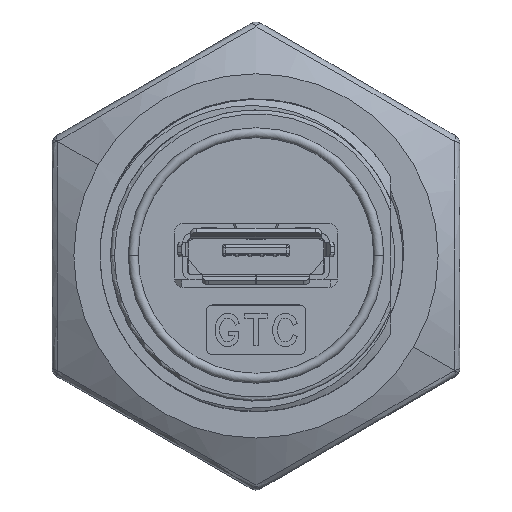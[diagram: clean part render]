
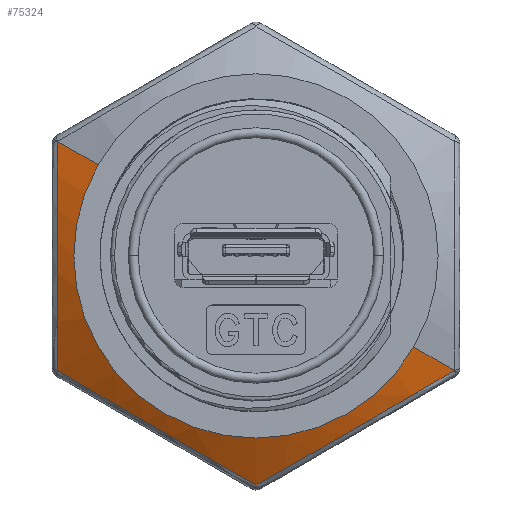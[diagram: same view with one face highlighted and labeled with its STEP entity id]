
A CAD part, top view. The second image highlights one B-rep face of the part: STEP entity #75324.
In plain terms, the highlighted conical face has half-angle 60 degrees and reference radius 11.91 mm.
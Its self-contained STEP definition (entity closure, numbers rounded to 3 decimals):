
#764 = LINE ( 'NONE', #1270, #31804 ) ;
#1270 = CARTESIAN_POINT ( 'NONE',  ( 10.314, -5.955, 6.608 ) ) ;
#3588 = CARTESIAN_POINT ( 'NONE',  ( -10.049, 0.994, 7.661 ) ) ;
#4865 = CARTESIAN_POINT ( 'NONE',  ( -7.143, -7.473, 7.522 ) ) ;
#5380 = CARTESIAN_POINT ( 'NONE',  ( -3.335, -9.675, 7.601 ) ) ;
#5636 = EDGE_CURVE ( 'NONE', #37011, #44751, #93268, .T. ) ;
#5718 = DIRECTION ( 'NONE',  ( -0.866, 0.5, 0. ) ) ;
#8274 = ORIENTED_EDGE ( 'NONE', *, *, #5636, .T. ) ;
#8658 = ORIENTED_EDGE ( 'NONE', *, *, #41075, .T. ) ;
#9379 = CARTESIAN_POINT ( 'NONE',  ( -10.05, -0.968, 7.683 ) ) ;
#11457 = CARTESIAN_POINT ( 'NONE',  ( -10.043, 2.45, 7.522 ) ) ;
#12221 = CARTESIAN_POINT ( 'NONE',  ( -10.017, -5.783, 6.807 ) ) ;
#12624 = CARTESIAN_POINT ( 'NONE',  ( 6.711, -7.726, 7.601 ) ) ;
#15356 = EDGE_CURVE ( 'NONE', #57861, #68525, #50667, .T. ) ;
#16671 = VERTEX_POINT ( 'NONE', #82589 ) ;
#19945 = CARTESIAN_POINT ( 'NONE',  ( 4.589, -8.955, 7.682 ) ) ;
#21300 = B_SPLINE_CURVE_WITH_KNOTS ( 'NONE', 3,
 ( #98337, #26625, #58574, #11457, #43368, #3588, #81092, #9379, #41292, #33444, #65388, #91521 ),
 .UNSPECIFIED., .F., .F.,
 ( 4, 2, 2, 2, 2, 4 ),
 ( 0., 0.003, 0.004, 0.006, 0.009, 0.012 ),
 .UNSPECIFIED. ) ;
#23341 = CIRCLE ( 'NONE', #28341, 9.2 ) ;
#26625 = CARTESIAN_POINT ( 'NONE',  ( -10.025, 4.841, 7.074 ) ) ;
#27639 = ORIENTED_EDGE ( 'NONE', *, *, #102482, .T. ) ;
#27793 = CARTESIAN_POINT ( 'NONE',  ( 2.9, -9.922, 7.522 ) ) ;
#28341 = AXIS2_PLACEMENT_3D ( 'NONE', #70095, #85275, #5718 ) ;
#31445 = DIRECTION ( 'NONE',  ( 0., 0., -1. ) ) ;
#31804 = VECTOR ( 'NONE', #49421, 1000. ) ;
#32905 = EDGE_CURVE ( 'NONE', #76925, #44751, #764, .T. ) ;
#33444 = CARTESIAN_POINT ( 'NONE',  ( -10.034, -3.884, 7.296 ) ) ;
#34446 = DIRECTION ( 'NONE',  ( -0.75, 0.433, -0.5 ) ) ;
#35242 = CARTESIAN_POINT ( 'NONE',  ( -9.205, -6.262, 7.074 ) ) ;
#36011 = B_SPLINE_CURVE_WITH_KNOTS ( 'NONE', 3,
 ( #12221, #35242, #52511, #4865, #99105, #77104, #36802, #93315, #5380, #84447, #68733, #51983 ),
 .UNSPECIFIED., .F., .F.,
 ( 4, 2, 2, 2, 2, 4 ),
 ( 0., 0.003, 0.004, 0.006, 0.009, 0.012 ),
 .UNSPECIFIED. ) ;
#36802 = CARTESIAN_POINT ( 'NONE',  ( -5.461, -8.452, 7.682 ) ) ;
#37011 = VERTEX_POINT ( 'NONE', #99142 ) ;
#41075 = EDGE_CURVE ( 'NONE', #68525, #16671, #21300, .T. ) ;
#41292 = CARTESIAN_POINT ( 'NONE',  ( -10.046, -1.949, 7.601 ) ) ;
#43368 = CARTESIAN_POINT ( 'NONE',  ( -10.046, 1.966, 7.581 ) ) ;
#44521 = CARTESIAN_POINT ( 'NONE',  ( 9.203, -6.263, 7.075 ) ) ;
#44751 = VERTEX_POINT ( 'NONE', #71911 ) ;
#46645 = DIRECTION ( 'NONE',  ( -0.866, 0.5, 0. ) ) ;
#49421 = DIRECTION ( 'NONE',  ( 0.75, -0.433, -0.5 ) ) ;
#50667 = LINE ( 'NONE', #66393, #84058 ) ;
#51341 = CARTESIAN_POINT ( 'NONE',  ( 0., -11.566, 6.807 ) ) ;
#51861 = CARTESIAN_POINT ( 'NONE',  ( 5.864, -8.219, 7.683 ) ) ;
#51983 = CARTESIAN_POINT ( 'NONE',  ( 0., -11.566, 6.807 ) ) ;
#52511 = CARTESIAN_POINT ( 'NONE',  ( -8.387, -6.744, 7.294 ) ) ;
#54404 = AXIS2_PLACEMENT_3D ( 'NONE', #54509, #31445, #46645 ) ;
#54509 = CARTESIAN_POINT ( 'NONE',  ( 0., 0., 6.608 ) ) ;
#57233 = ORIENTED_EDGE ( 'NONE', *, *, #32905, .F. ) ;
#57861 = VERTEX_POINT ( 'NONE', #64461 ) ;
#58574 = CARTESIAN_POINT ( 'NONE',  ( -10.034, 3.891, 7.294 ) ) ;
#59416 = EDGE_CURVE ( 'NONE', #16671, #37011, #36011, .T. ) ;
#62366 = FACE_OUTER_BOUND ( 'NONE', #103160, .T. ) ;
#62381 = CARTESIAN_POINT ( 'NONE',  ( -10.017, 5.783, 6.807 ) ) ;
#64461 = CARTESIAN_POINT ( 'NONE',  ( -7.967, 4.6, 8.173 ) ) ;
#65388 = CARTESIAN_POINT ( 'NONE',  ( -10.025, -4.839, 7.075 ) ) ;
#66393 = CARTESIAN_POINT ( 'NONE',  ( -10.314, 5.955, 6.608 ) ) ;
#68525 = VERTEX_POINT ( 'NONE', #62381 ) ;
#68733 = CARTESIAN_POINT ( 'NONE',  ( -0.822, -11.102, 7.075 ) ) ;
#70095 = CARTESIAN_POINT ( 'NONE',  ( 0., 0., 8.173 ) ) ;
#71911 = CARTESIAN_POINT ( 'NONE',  ( 10.017, -5.783, 6.807 ) ) ;
#75324 = ADVANCED_FACE ( 'NONE', ( #62366 ), #99505, .T. ) ;
#75956 = CARTESIAN_POINT ( 'NONE',  ( 3.32, -9.683, 7.581 ) ) ;
#76092 = ORIENTED_EDGE ( 'NONE', *, *, #15356, .T. ) ;
#76464 = CARTESIAN_POINT ( 'NONE',  ( 10.017, -5.783, 6.807 ) ) ;
#76925 = VERTEX_POINT ( 'NONE', #99631 ) ;
#77104 = CARTESIAN_POINT ( 'NONE',  ( -5.885, -8.206, 7.661 ) ) ;
#81092 = CARTESIAN_POINT ( 'NONE',  ( -10.05, 0.503, 7.682 ) ) ;
#82589 = CARTESIAN_POINT ( 'NONE',  ( -10.017, -5.783, 6.807 ) ) ;
#84058 = VECTOR ( 'NONE', #34446, 1000. ) ;
#84322 = CARTESIAN_POINT ( 'NONE',  ( 1.647, -10.635, 7.294 ) ) ;
#84447 = CARTESIAN_POINT ( 'NONE',  ( -1.653, -10.631, 7.296 ) ) ;
#85275 = DIRECTION ( 'NONE',  ( 0., 0., -1. ) ) ;
#91521 = CARTESIAN_POINT ( 'NONE',  ( -10.017, -5.783, 6.807 ) ) ;
#92158 = CARTESIAN_POINT ( 'NONE',  ( 4.164, -9.2, 7.661 ) ) ;
#93268 = B_SPLINE_CURVE_WITH_KNOTS ( 'NONE', 3,
 ( #51341, #99500, #84322, #27793, #75956, #92158, #19945, #51861, #12624, #100537, #44521, #76464 ),
 .UNSPECIFIED., .F., .F.,
 ( 4, 2, 2, 2, 2, 4 ),
 ( 0., 0.003, 0.004, 0.006, 0.009, 0.012 ),
 .UNSPECIFIED. ) ;
#93315 = CARTESIAN_POINT ( 'NONE',  ( -4.186, -9.188, 7.683 ) ) ;
#98337 = CARTESIAN_POINT ( 'NONE',  ( -10.017, 5.783, 6.807 ) ) ;
#99105 = CARTESIAN_POINT ( 'NONE',  ( -6.726, -7.717, 7.581 ) ) ;
#99142 = CARTESIAN_POINT ( 'NONE',  ( 0., -11.566, 6.807 ) ) ;
#99500 = CARTESIAN_POINT ( 'NONE',  ( 0.82, -11.103, 7.074 ) ) ;
#99505 = CONICAL_SURFACE ( 'NONE', #54404, 11.91, 1.047 ) ;
#99631 = CARTESIAN_POINT ( 'NONE',  ( 7.967, -4.6, 8.173 ) ) ;
#100537 = CARTESIAN_POINT ( 'NONE',  ( 8.38, -6.748, 7.296 ) ) ;
#102482 = EDGE_CURVE ( 'NONE', #76925, #57861, #23341, .T. ) ;
#102905 = ORIENTED_EDGE ( 'NONE', *, *, #59416, .T. ) ;
#103160 = EDGE_LOOP ( 'NONE', ( #57233, #27639, #76092, #8658, #102905, #8274 ) ) ;
